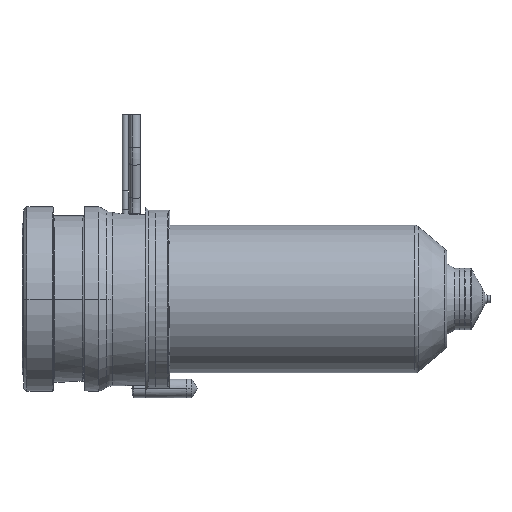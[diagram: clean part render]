
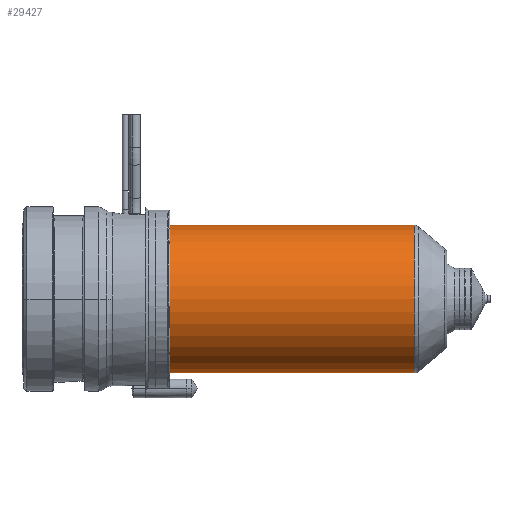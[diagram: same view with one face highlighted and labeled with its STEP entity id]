
A CAD part, left-side view. The second image highlights one B-rep face of the part: STEP entity #29427.
In plain terms, the highlighted cylindrical face has radius 12 mm (diameter 24 mm), a partial arc.
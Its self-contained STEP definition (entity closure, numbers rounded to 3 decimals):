
#28812=CARTESIAN_POINT('',(0.,-63.736,0.));
#28813=DIRECTION('',(0.,-1.,0.));
#28814=DIRECTION('',(0.,0.,1.));
#28815=AXIS2_PLACEMENT_3D('',#28812,#28813,#28814);
#28820=CARTESIAN_POINT('',(0.,-24.,0.));
#28821=DIRECTION('',(0.,1.,0.));
#28822=DIRECTION('',(0.,0.,-1.));
#28823=AXIS2_PLACEMENT_3D('',#28820,#28821,#28822);
#28828=DIRECTION('',(0.,1.,0.));
#28829=VECTOR('',#28828,39.736);
#28830=CARTESIAN_POINT('',(0.,-63.736,12.));
#28831=LINE('',#28830,#28829);
#28843=DIRECTION('',(0.,1.,0.));
#28844=VECTOR('',#28843,39.736);
#28845=CARTESIAN_POINT('',(0.,-63.736,-12.));
#28846=LINE('',#28845,#28844);
#29032=CARTESIAN_POINT('',(0.,-63.736,12.));
#29033=CARTESIAN_POINT('',(0.,-24.,12.));
#29034=VERTEX_POINT('',#29032);
#29035=VERTEX_POINT('',#29033);
#29036=CARTESIAN_POINT('',(0.,-63.736,-12.));
#29037=CARTESIAN_POINT('',(0.,-24.,-12.));
#29038=VERTEX_POINT('',#29036);
#29039=VERTEX_POINT('',#29037);
#29413=CARTESIAN_POINT('',(0.,-17.2,0.));
#29414=DIRECTION('',(0.,-1.,0.));
#29415=DIRECTION('',(0.,0.,1.));
#29416=AXIS2_PLACEMENT_3D('',#29413,#29414,#29415);
#29417=CYLINDRICAL_SURFACE('',#29416,12.);
#29419=ORIENTED_EDGE('',*,*,#29418,.F.);
#29420=ORIENTED_EDGE('',*,*,#29408,.T.);
#29422=ORIENTED_EDGE('',*,*,#29421,.T.);
#29424=ORIENTED_EDGE('',*,*,#29423,.T.);
#29425=EDGE_LOOP('',(#29419,#29420,#29422,#29424));
#29426=FACE_OUTER_BOUND('',#29425,.F.);
#29427=ADVANCED_FACE('',(#29426),#29417,.T.);
#28816=CIRCLE('',#28815,12.);
#28824=CIRCLE('',#28823,12.);
#29408=EDGE_CURVE('',#29034,#29038,#28816,.T.);
#29418=EDGE_CURVE('',#29034,#29035,#28831,.T.);
#29421=EDGE_CURVE('',#29038,#29039,#28846,.T.);
#29423=EDGE_CURVE('',#29039,#29035,#28824,.T.);
